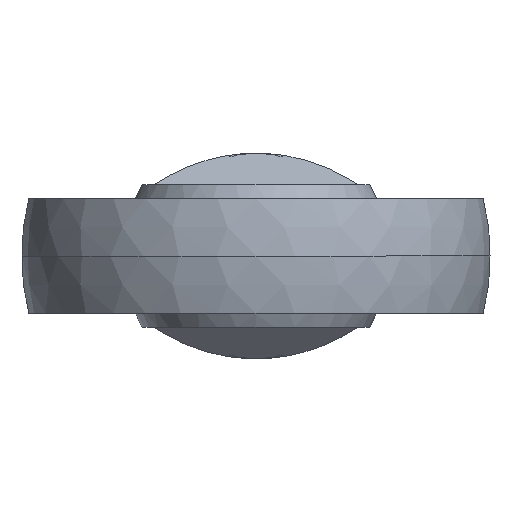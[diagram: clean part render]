
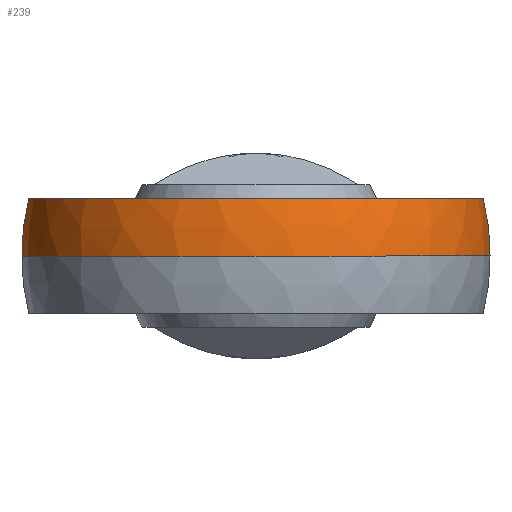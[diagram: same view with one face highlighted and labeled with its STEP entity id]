
A CAD part, left-side view. The second image highlights one B-rep face of the part: STEP entity #239.
In plain terms, the highlighted spherical face has radius 41 mm.
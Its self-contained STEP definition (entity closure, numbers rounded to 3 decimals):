
#169 = EDGE_LOOP ( 'NONE', ( #205, #222, #229, #207, #231 ) ) ;
#205 = ORIENTED_EDGE ( 'NONE', *, *, #220, .F. ) ;
#206 = VERTEX_POINT ( 'NONE', #618 ) ;
#207 = ORIENTED_EDGE ( 'NONE', *, *, #208, .F. ) ;
#208 = EDGE_CURVE ( 'NONE', #209, #206, #617, .T. ) ;
#209 = VERTEX_POINT ( 'NONE', #612 ) ;
#220 = EDGE_CURVE ( 'NONE', #240, #221, #651, .T. ) ;
#221 = VERTEX_POINT ( 'NONE', #646 ) ;
#222 = ORIENTED_EDGE ( 'NONE', *, *, #223, .T. ) ;
#223 = EDGE_CURVE ( 'NONE', #240, #224, #645, .T. ) ;
#224 = VERTEX_POINT ( 'NONE', #640 ) ;
#229 = ORIENTED_EDGE ( 'NONE', *, *, #230, .F. ) ;
#230 = EDGE_CURVE ( 'NONE', #206, #224, #629, .T. ) ;
#231 = ORIENTED_EDGE ( 'NONE', *, *, #232, .F. ) ;
#232 = EDGE_CURVE ( 'NONE', #221, #209, #681, .T. ) ;
#239 = ADVANCED_FACE ( 'NONE', ( #664 ), #661, .T. ) ;
#240 = VERTEX_POINT ( 'NONE', #713 ) ;
#612 = CARTESIAN_POINT ( 'NONE',  ( 23.363, 32.174, 10. ) ) ;
#613 = DIRECTION ( 'NONE',  ( -1., 0., 0. ) ) ;
#614 = DIRECTION ( 'NONE',  ( 0., 0., 1. ) ) ;
#615 = CARTESIAN_POINT ( 'NONE',  ( 0., 0., 10. ) ) ;
#616 = AXIS2_PLACEMENT_3D ( 'NONE', #615, #614, #613 ) ;
#617 = CIRCLE ( 'NONE', #616, 39.762 ) ;
#618 = CARTESIAN_POINT ( 'NONE',  ( 23.363, -32.174, 10. ) ) ;
#629 = CIRCLE ( 'NONE', #685, 33.692 ) ;
#640 = CARTESIAN_POINT ( 'NONE',  ( 23.363, -33.692, 0. ) ) ;
#641 = DIRECTION ( 'NONE',  ( 0., -1., 0. ) ) ;
#642 = DIRECTION ( 'NONE',  ( 0., 0., 1. ) ) ;
#643 = CARTESIAN_POINT ( 'NONE',  ( 0., 0., 0. ) ) ;
#644 = AXIS2_PLACEMENT_3D ( 'NONE', #643, #642, #641 ) ;
#645 = CIRCLE ( 'NONE', #644, 41. ) ;
#646 = CARTESIAN_POINT ( 'NONE',  ( 23.363, 33.692, 0. ) ) ;
#647 = DIRECTION ( 'NONE',  ( -1., 0., 0. ) ) ;
#648 = DIRECTION ( 'NONE',  ( 0., 0., -1. ) ) ;
#649 = CARTESIAN_POINT ( 'NONE',  ( 0., 0., 0. ) ) ;
#650 = AXIS2_PLACEMENT_3D ( 'NONE', #649, #648, #647 ) ;
#651 = CIRCLE ( 'NONE', #650, 41. ) ;
#661 = SPHERICAL_SURFACE ( 'NONE', #663, 41. ) ;
#662 = CARTESIAN_POINT ( 'NONE',  ( 0., 0., 0. ) ) ;
#663 = AXIS2_PLACEMENT_3D ( 'NONE', #662, #712, #711 ) ;
#664 = FACE_OUTER_BOUND ( 'NONE', #169, .T. ) ;
#677 = DIRECTION ( 'NONE',  ( 0., 1., 0. ) ) ;
#678 = DIRECTION ( 'NONE',  ( 1., 0., 0. ) ) ;
#679 = CARTESIAN_POINT ( 'NONE',  ( 23.363, 0., 0. ) ) ;
#680 = AXIS2_PLACEMENT_3D ( 'NONE', #679, #678, #677 ) ;
#681 = CIRCLE ( 'NONE', #680, 33.692 ) ;
#682 = DIRECTION ( 'NONE',  ( 0., 1., 0. ) ) ;
#683 = DIRECTION ( 'NONE',  ( 1., 0., 0. ) ) ;
#684 = CARTESIAN_POINT ( 'NONE',  ( 23.363, 0., 0. ) ) ;
#685 = AXIS2_PLACEMENT_3D ( 'NONE', #684, #683, #682 ) ;
#711 = DIRECTION ( 'NONE',  ( 0., 1., 0. ) ) ;
#712 = DIRECTION ( 'NONE',  ( 0., 0., 1. ) ) ;
#713 = CARTESIAN_POINT ( 'NONE',  ( -41., 0., 0. ) ) ;
